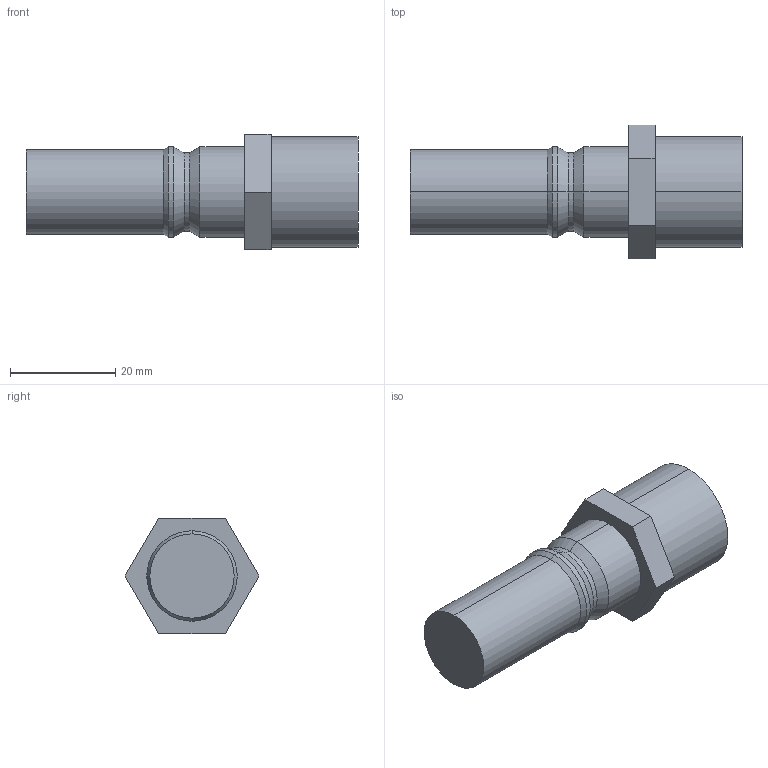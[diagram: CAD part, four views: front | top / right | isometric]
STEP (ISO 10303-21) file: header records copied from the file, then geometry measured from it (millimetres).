
FILE_DESCRIPTION (( 'STEP AP214' ), '1' );
FILE_NAME ('BR601.16 ER 21.STEP', '2020-12-02T13:43:30', ( '' ), ( '' ), 'SwSTEP 2.0', 'SolidWorks 2018', '' );
FILE_SCHEMA (( 'AUTOMOTIVE_DESIGN' ));
Length unit declared in the file: millimetre
Products named in the file (1): BR601.16 ER 21
Bounding box: 63 x 25.4 x 22 mm (x, y, z)
Volume: 16428.7 mm3; surface area: 4435.7 mm2
Topology: 1 solids, 1 shells, 26 faces, 54 edges, 32 vertices
Faces by surface type: cylinder 10, plane 10, cone 6
Entity records: 716 total; most frequent: DIRECTION 128, CARTESIAN_POINT 113, ORIENTED_EDGE 108, EDGE_CURVE 54, AXIS2_PLACEMENT_3D 47, LINE 34, VECTOR 34, VERTEX_POINT 32
